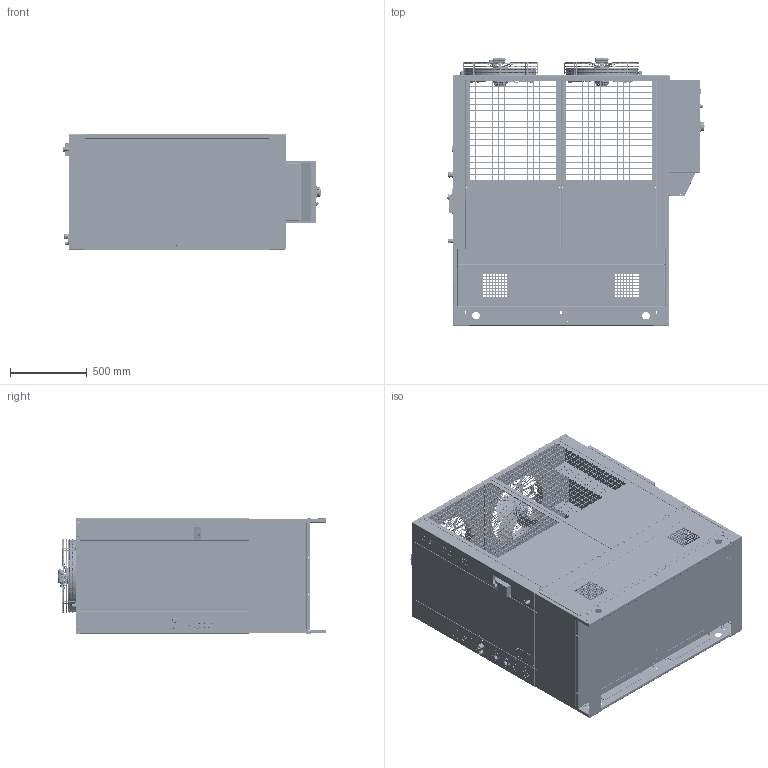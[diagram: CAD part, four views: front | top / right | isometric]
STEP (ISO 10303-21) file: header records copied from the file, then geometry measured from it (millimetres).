
FILE_DESCRIPTION (( 'STEP AP214' ), '1' );
FILE_NAME ('50-3D-00015+50-3D-00022+UL-CSA.STEP', '2018-12-13T12:41:23', ( 'Utente' ), ( 'Microsoft' ), 'SwSTEP 2.0', 'SolidWorks 2013', '' );
FILE_SCHEMA (( 'AUTOMOTIVE_DESIGN' ));
Length unit declared in the file: millimetre
Products named in the file (67): CR-2D-00004_000; VR-3D-00035_000; SELETTORE_NERO; CR-3D-00002_000; VE-W3-00001; VR-3D-00023_002; Tappo quadro elettrico; Welding stud DIN32501-1 M6X15 INOX; SE-RP-00013_FIGURINO; VR-3D-00024_001; DED965FB-6F17-44D8-8B5E-7FBD67AD56EC; Rivelox M6 Reduced Head Hexagonal Shank; PG 13.5_Cable-Gland-1.209.1300.14-Nelco; VR-3D-00022_002; SW3dPS-rotary switch_Dial; PG 13.5_1_Socket-1.209.1300.14-Nelco; VR-3D-00003_002; SW3dPS-rotary switch_Cowling; CR-3D-00008_000; PG 13.5_2_Nut-PA-Grey-24-24-27-Nelco; RIVELOX M5; SW3dPS-rotary switch_Screw; VR-3D-00021_000; SW3dPS-rotary switch_Indicator Plate; CR-3D-00007_000; VR-2D-00008_001; CR-3D-00005_000; SW3dPS-rotary switch_541-0057-B; VR-3D-00004_001; TE-EL-00007 - EW_971_230V; VR-2D-00014_000; VR-2D-00005_001; Rivelox M5 Reduced Head Hexagonal Shank..; QE 400x600x200; VR-2D-00036_000; VR-2D-00013_001; CR-3D-00011_000; MA-N1-00001_MANOMETRO ACQUA 40mm 0-12 BAR; VR-2D-00012_000; CR-3D-00006_000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
Assembly tree (170 placements, depth 4):
  50-3D-00015+50-3D-00022+UL-CSA
    VR-3D-00004_001
      VR-3D-00004_001
      Rivelox M5 Reduced Head Hexagonal Shank..  x4
    CR-3D-00005_000  x2
    50-3D-00022
      VR-3D-00003_002
        VR-3D-00003_002
        RIVELOX M5  x30
      VR-3D-00022_002
      VR-3D-00024_001  x2
      VR-3D-00023_002  x2
      VR-3D-00004_001
        VR-3D-00004_001
        Rivelox M5 Reduced Head Hexagonal Shank..  x4
      VR-3D-00035_000  x4
    VR-2D-00011_000
      VR-2D-00011_000
      Rivelox M5 Reduced Head Hexagonal Shank.  x8
    VR-2D-00012_000
      VR-2D-00012_000
      Rivelox M5 Reduced Head Hexagonal Shank.  x8
    VR-2D-00013_001
      VR-2D-00013_001
      Rivelox M5 Reduced Head Hexagonal Shank.  x5
    VR-2D-00014_000
      VR-2D-00014_000
      Rivelox M5 Reduced Head Hexagonal Shank.  x5
    CR-3D-00007_000
      CR-3D-00007_000
      Rivelox M5 Reduced Head Hexagonal Shank..  x4
    CR-3D-00008_000
      CR-3D-00008_000
      Rivelox M5 Reduced Head Hexagonal Shank..  x4
    CR-3D-00002_000
      CR-3D-00002_000
      Rivelox M5 Reduced Head Hexagonal Shank..  x6
      Rivelox M6 Reduced Head Hexagonal Shank  x4
      Welding stud DIN32501-1 M6X15 INOX
    CR-2D-00004_000
    VR-3D-00015_001
      VR-3D-00015_001A
      VR-3D-00015_001B  x2
    CR-3D-00006_000
      CR-3D-00006_000
      Rivelox M5 Reduced Head Hexagonal Shank  x4
    CR-3D-00011_000  x2
      CR-3D-00011_000
      Rivelox M5 Reduced Head Hexagonal Shank.
    VR-2D-00005_001  x4
      VR-2D-00005_001
      Rivelox M5 Reduced Head Hexagonal Shank.
    VR-2D-00008_001
      VR-2D-00008_001
      Rivelox M5 Reduced Head Hexagonal Shank.  x2
    VR-3D-00021_000
    PG 13.5_Cable-Gland-1.209.1300.14-Nelco  x3
      PG 13.5_2_Nut-PA-Grey-24-24-27-Nelco
      PG 13.5_1_Socket-1.209.1300.14-Nelco
    SE-RP-00013_FIGURINO
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Bounding box: 1682.04 x 1748.26 x 754.7 mm (x, y, z)
Volume: 21486831.3 mm3; surface area: 32036122.5 mm2
Topology: 228 solids, 458 shells, 18430 faces, 56516 edges, 38222 vertices
Faces by surface type: plane 11277, cylinder 3201, bspline 2791, cone 1041, torus 120
Entity records: 521660 total; most frequent: CARTESIAN_POINT 243281, ORIENTED_EDGE 52421, DIRECTION 44172, EDGE_CURVE 28919, VERTEX_POINT 19455, VECTOR 17026, LINE 17026, AXIS2_PLACEMENT_3D 13573
